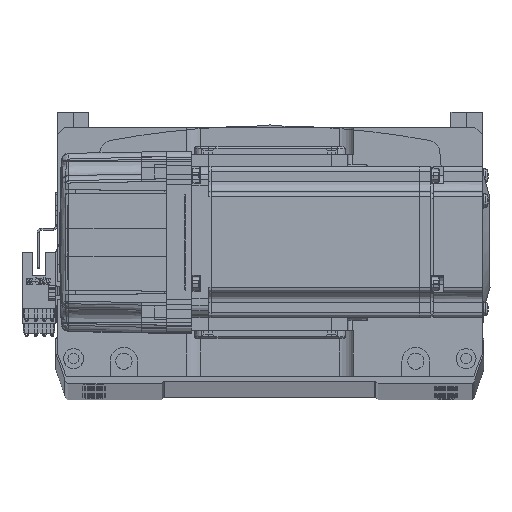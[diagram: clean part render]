
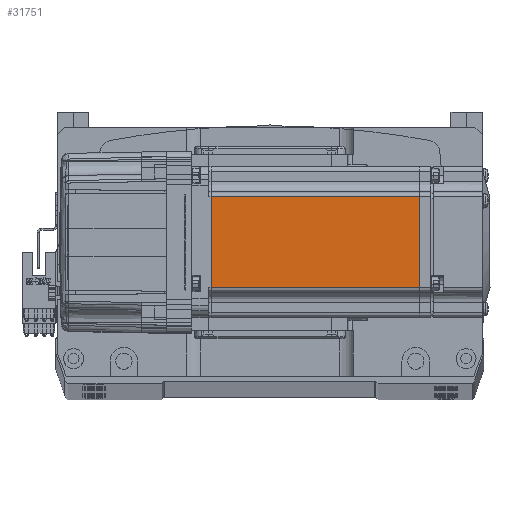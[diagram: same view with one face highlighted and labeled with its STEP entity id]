
A CAD part, top view. The second image highlights one B-rep face of the part: STEP entity #31751.
In plain terms, the highlighted planar face has unit normal (0, 0, 1) as drawn and (0, -1, 0) by its records, which use the part's own axes.
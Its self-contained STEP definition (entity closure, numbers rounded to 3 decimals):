
#2218 = VERTEX_POINT ( 'NONE', #31748 ) ;
#3487 = EDGE_CURVE ( 'NONE', #2218, #7551, #62000, .T. ) ;
#6772 = CARTESIAN_POINT ( 'NONE',  ( -7.75, -30., -25. ) ) ;
#7551 = VERTEX_POINT ( 'NONE', #59012 ) ;
#8860 = CARTESIAN_POINT ( 'NONE',  ( -7.75, -30., -18. ) ) ;
#13674 = CARTESIAN_POINT ( 'NONE',  ( -90.45, -30., -18. ) ) ;
#14092 = ORIENTED_EDGE ( 'NONE', *, *, #60782, .T. ) ;
#14286 = VECTOR ( 'NONE', #41881, 1000. ) ;
#17767 = CARTESIAN_POINT ( 'NONE',  ( -6.5, -30., -25. ) ) ;
#19671 = EDGE_CURVE ( 'NONE', #7551, #63777, #38179, .T. ) ;
#23506 = CARTESIAN_POINT ( 'NONE',  ( -6.5, -30., -18. ) ) ;
#23957 = PLANE ( 'NONE',  #73119 ) ;
#28859 = ORIENTED_EDGE ( 'NONE', *, *, #3487, .T. ) ;
#31117 = FACE_OUTER_BOUND ( 'NONE', #53445, .T. ) ;
#31748 = CARTESIAN_POINT ( 'NONE',  ( -7.75, -30., 18. ) ) ;
#31751 = ADVANCED_FACE ( 'NONE', ( #31117 ), #23957, .T. ) ;
#36802 = VECTOR ( 'NONE', #50934, 1000. ) ;
#38179 = LINE ( 'NONE', #52733, #14286 ) ;
#39552 = EDGE_CURVE ( 'NONE', #39960, #2218, #57207, .T. ) ;
#39960 = VERTEX_POINT ( 'NONE', #8860 ) ;
#41881 = DIRECTION ( 'NONE',  ( 0., 0., -1. ) ) ;
#44333 = VECTOR ( 'NONE', #73318, 1000. ) ;
#50934 = DIRECTION ( 'NONE',  ( 1., 0., 0. ) ) ;
#51267 = ORIENTED_EDGE ( 'NONE', *, *, #19671, .T. ) ;
#51608 = CARTESIAN_POINT ( 'NONE',  ( -6.5, -30., 18. ) ) ;
#52733 = CARTESIAN_POINT ( 'NONE',  ( -90.45, -30., -25. ) ) ;
#53445 = EDGE_LOOP ( 'NONE', ( #60539, #28859, #51267, #14092 ) ) ;
#57207 = LINE ( 'NONE', #6772, #69619 ) ;
#59012 = CARTESIAN_POINT ( 'NONE',  ( -90.45, -30., 18. ) ) ;
#60539 = ORIENTED_EDGE ( 'NONE', *, *, #39552, .T. ) ;
#60782 = EDGE_CURVE ( 'NONE', #63777, #39960, #64264, .T. ) ;
#62000 = LINE ( 'NONE', #51608, #44333 ) ;
#63481 = DIRECTION ( 'NONE',  ( 0., -1., 0. ) ) ;
#63777 = VERTEX_POINT ( 'NONE', #13674 ) ;
#64264 = LINE ( 'NONE', #23506, #36802 ) ;
#68296 = DIRECTION ( 'NONE',  ( 0., 0., 1. ) ) ;
#69140 = DIRECTION ( 'NONE',  ( 0., 0., -1. ) ) ;
#69619 = VECTOR ( 'NONE', #68296, 1000. ) ;
#73119 = AXIS2_PLACEMENT_3D ( 'NONE', #17767, #63481, #69140 ) ;
#73318 = DIRECTION ( 'NONE',  ( -1., 0., 0. ) ) ;
